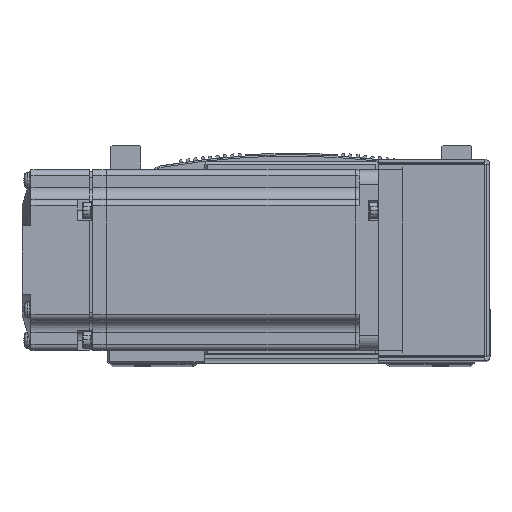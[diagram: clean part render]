
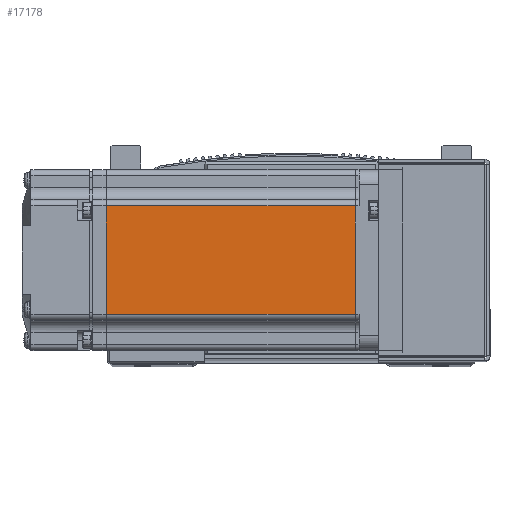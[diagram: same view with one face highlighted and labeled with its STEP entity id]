
A CAD part, top view. The second image highlights one B-rep face of the part: STEP entity #17178.
In plain terms, the highlighted planar face has unit normal (0, 0, 1) as drawn and (0, 1, 0) by its records, which use the part's own axes.
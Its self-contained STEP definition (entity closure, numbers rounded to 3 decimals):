
#30 = CARTESIAN_POINT ( 'NONE',  ( -7.75, 30., -18. ) ) ;
#33 = CARTESIAN_POINT ( 'NONE',  ( -7.75, 30., 18. ) ) ;
#407 = CARTESIAN_POINT ( 'NONE',  ( -90.45, 30., 18. ) ) ;
#1067 = CARTESIAN_POINT ( 'NONE',  ( -90.45, 30., -18. ) ) ;
#5268 = LINE ( 'NONE', #18218, #5290 ) ;
#5290 = VECTOR ( 'NONE', #18271, 1000. ) ;
#5384 = LINE ( 'NONE', #16993, #5412 ) ;
#5386 = VECTOR ( 'NONE', #18322, 1000. ) ;
#5412 = VECTOR ( 'NONE', #17003, 1000. ) ;
#5434 = VECTOR ( 'NONE', #18330, 1000. ) ;
#5482 = LINE ( 'NONE', #18313, #5434 ) ;
#5490 = LINE ( 'NONE', #18301, #5386 ) ;
#16993 = CARTESIAN_POINT ( 'NONE',  ( -7.75, 30., 0. ) ) ;
#17003 = DIRECTION ( 'NONE',  ( 0., 0., 1. ) ) ;
#17178 = ADVANCED_FACE ( 'NONE', ( #34379 ), #77247, .T. ) ;
#18218 = CARTESIAN_POINT ( 'NONE',  ( -6.5, 30., 18. ) ) ;
#18271 = DIRECTION ( 'NONE',  ( 1., 0., 0. ) ) ;
#18301 = CARTESIAN_POINT ( 'NONE',  ( -6.5, 30., -18. ) ) ;
#18313 = CARTESIAN_POINT ( 'NONE',  ( -90.45, 30., 0. ) ) ;
#18322 = DIRECTION ( 'NONE',  ( -1., 0., 0. ) ) ;
#18330 = DIRECTION ( 'NONE',  ( 0., 0., 1. ) ) ;
#34379 = FACE_OUTER_BOUND ( 'NONE', #73659, .T. ) ;
#42878 = AXIS2_PLACEMENT_3D ( 'NONE', #77216, #77224, #77267 ) ;
#45940 = ORIENTED_EDGE ( 'NONE', *, *, #60434, .T. ) ;
#45953 = ORIENTED_EDGE ( 'NONE', *, *, #60479, .F. ) ;
#45962 = ORIENTED_EDGE ( 'NONE', *, *, #60454, .T. ) ;
#45972 = ORIENTED_EDGE ( 'NONE', *, *, #60465, .T. ) ;
#60434 = EDGE_CURVE ( 'NONE', #78807, #78882, #5268, .T. ) ;
#60454 = EDGE_CURVE ( 'NONE', #78918, #78807, #5482, .T. ) ;
#60465 = EDGE_CURVE ( 'NONE', #78876, #78918, #5490, .T. ) ;
#60479 = EDGE_CURVE ( 'NONE', #78876, #78882, #5384, .T. ) ;
#73659 = EDGE_LOOP ( 'NONE', ( #45953, #45972, #45962, #45940 ) ) ;
#77216 = CARTESIAN_POINT ( 'NONE',  ( -6.5, 30., 25. ) ) ;
#77224 = DIRECTION ( 'NONE',  ( 0., 1., 0. ) ) ;
#77247 = PLANE ( 'NONE',  #42878 ) ;
#77267 = DIRECTION ( 'NONE',  ( 0., 0., 1. ) ) ;
#78807 = VERTEX_POINT ( 'NONE', #407 ) ;
#78876 = VERTEX_POINT ( 'NONE', #30 ) ;
#78882 = VERTEX_POINT ( 'NONE', #33 ) ;
#78918 = VERTEX_POINT ( 'NONE', #1067 ) ;
